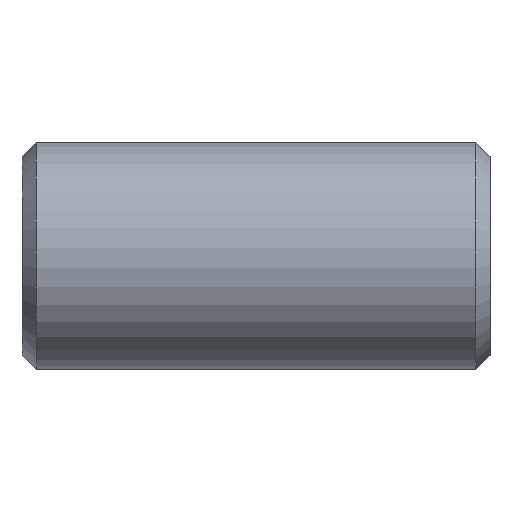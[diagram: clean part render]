
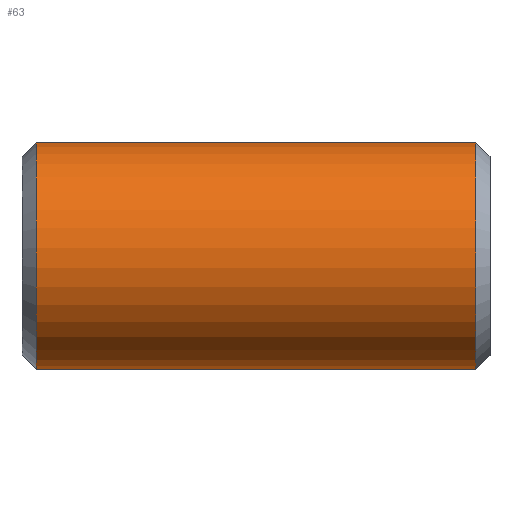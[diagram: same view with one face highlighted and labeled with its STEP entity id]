
A CAD part, front view. The second image highlights one B-rep face of the part: STEP entity #63.
In plain terms, the highlighted cylindrical face has radius 4 mm (diameter 8 mm), a partial arc.
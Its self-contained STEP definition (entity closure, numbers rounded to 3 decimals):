
#63=ADVANCED_FACE('',(#92),#93,.T.);
#92=FACE_OUTER_BOUND('',#123,.T.);
#93=CYLINDRICAL_SURFACE('',#124,4.0);
#123=EDGE_LOOP('',(#213,#214,#215,#216));
#124=AXIS2_PLACEMENT_3D('',#217,#218,#219);
#213=ORIENTED_EDGE('',*,*,#228,.T.);
#214=ORIENTED_EDGE('',*,*,#240,.F.);
#215=ORIENTED_EDGE('',*,*,#230,.T.);
#216=ORIENTED_EDGE('',*,*,#255,.F.);
#217=CARTESIAN_POINT('',(-713.5,210.683,-9.862));
#218=DIRECTION('',(-1.0,0.0,0.0));
#219=DIRECTION('',(0.0,-0.102,0.995));
#228=EDGE_CURVE('',#256,#257,#258,.T.);
#230=EDGE_CURVE('',#261,#259,#262,.T.);
#240=EDGE_CURVE('',#261,#257,#279,.T.);
#255=EDGE_CURVE('',#256,#259,#299,.T.);
#256=VERTEX_POINT('',#300);
#257=VERTEX_POINT('',#301);
#258=LINE('',#302,#303);
#259=VERTEX_POINT('',#304);
#261=VERTEX_POINT('',#306);
#262=LINE('',#307,#308);
#279=CIRCLE('',#330,4.0);
#299=CIRCLE('',#355,4.0);
#300=CARTESIAN_POINT('',(-714.0,210.274,-5.883));
#301=CARTESIAN_POINT('',(-729.5,210.274,-5.883));
#302=CARTESIAN_POINT('',(-721.75,210.274,-5.883));
#303=VECTOR('',#356,1.0);
#304=CARTESIAN_POINT('',(-714.0,211.091,-13.842));
#306=CARTESIAN_POINT('',(-729.5,211.091,-13.842));
#307=CARTESIAN_POINT('',(-721.75,211.091,-13.842));
#308=VECTOR('',#360,1.0);
#330=AXIS2_PLACEMENT_3D('',#378,#379,#380);
#355=AXIS2_PLACEMENT_3D('',#413,#414,#415);
#356=DIRECTION('',(-1.0,0.0,0.0));
#360=DIRECTION('',(1.0,-0.0,-0.0));
#378=CARTESIAN_POINT('',(-729.5,210.683,-9.862));
#379=DIRECTION('',(-1.0,0.0,0.0));
#380=DIRECTION('',(0.0,0.102,-0.995));
#413=CARTESIAN_POINT('',(-714.0,210.683,-9.862));
#414=DIRECTION('',(1.0,-0.0,0.0));
#415=DIRECTION('',(0.0,0.102,-0.995));
